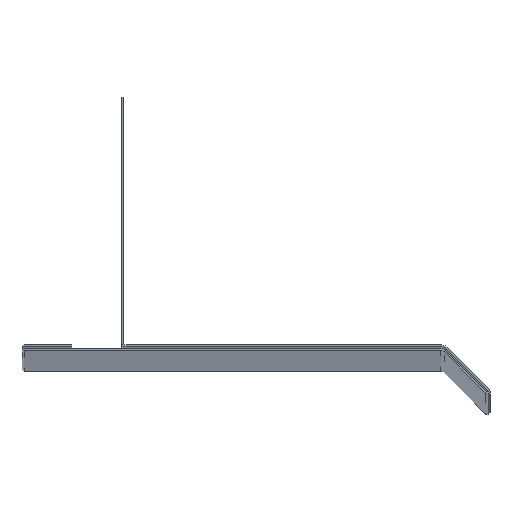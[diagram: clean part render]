
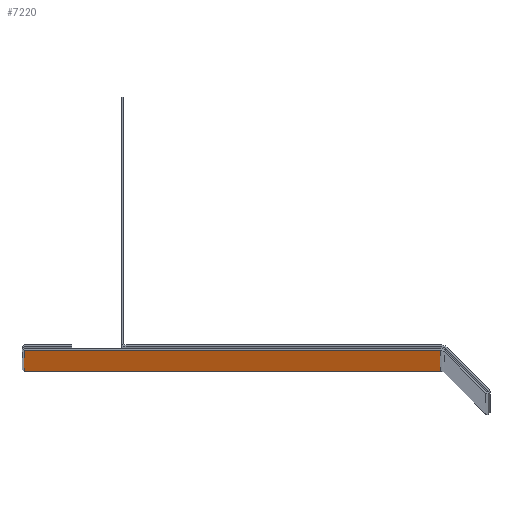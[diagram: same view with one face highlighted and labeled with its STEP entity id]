
A CAD part, top view. The second image highlights one B-rep face of the part: STEP entity #7220.
In plain terms, the highlighted planar face has unit normal (0, -1, 0).
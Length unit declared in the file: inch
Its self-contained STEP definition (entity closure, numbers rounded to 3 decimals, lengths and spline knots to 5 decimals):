
#346=PLANE('',#7924);
#690=FACE_OUTER_BOUND('',#1196,.T.);
#1196=EDGE_LOOP('',(#6643,#6644,#6645,#6646));
#1884=LINE('',#12038,#2576);
#1885=LINE('',#12041,#2577);
#1886=LINE('',#12043,#2578);
#1887=LINE('',#12044,#2579);
#2576=VECTOR('',#9968,0.3937);
#2577=VECTOR('',#9971,0.3937);
#2578=VECTOR('',#9972,0.3937);
#2579=VECTOR('',#9973,0.3937);
#3605=VERTEX_POINT('',#12034);
#3606=VERTEX_POINT('',#12036);
#3607=VERTEX_POINT('',#12040);
#3608=VERTEX_POINT('',#12042);
#4632=EDGE_CURVE('',#3605,#3606,#1884,.T.);
#4633=EDGE_CURVE('',#3605,#3607,#1885,.T.);
#4634=EDGE_CURVE('',#3608,#3606,#1886,.T.);
#4635=EDGE_CURVE('',#3607,#3608,#1887,.T.);
#6643=ORIENTED_EDGE('',*,*,#4633,.F.);
#6644=ORIENTED_EDGE('',*,*,#4632,.T.);
#6645=ORIENTED_EDGE('',*,*,#4634,.F.);
#6646=ORIENTED_EDGE('',*,*,#4635,.F.);
#7220=ADVANCED_FACE('',(#690),#346,.T.);
#7924=AXIS2_PLACEMENT_3D('',#12039,#9969,#9970);
#9968=DIRECTION('',(0.,0.,-1.));
#9969=DIRECTION('center_axis',(0.,-1.,
0.));
#9970=DIRECTION('ref_axis',(-1.,0.,0.));
#9971=DIRECTION('',(1.,0.,0.));
#9972=DIRECTION('',(-1.,0.,0.));
#9973=DIRECTION('',(0.,0.,-1.));
#12034=CARTESIAN_POINT('',(-3.0507,-0.95834,0.));
#12036=CARTESIAN_POINT('',(-3.0507,-0.95834,-120.));
#12038=CARTESIAN_POINT('',(-3.0507,-0.95834,0.));
#12039=CARTESIAN_POINT('Origin',(1.11546,-0.95906,0.));
#12040=CARTESIAN_POINT('',(1.11546,-0.95906,0.));
#12041=CARTESIAN_POINT('',(-3.0507,-0.95834,0.));
#12042=CARTESIAN_POINT('',(1.11546,-0.95906,-120.));
#12043=CARTESIAN_POINT('',(-3.0507,-0.95834,-120.));
#12044=CARTESIAN_POINT('',(1.11546,-0.95906,0.));
